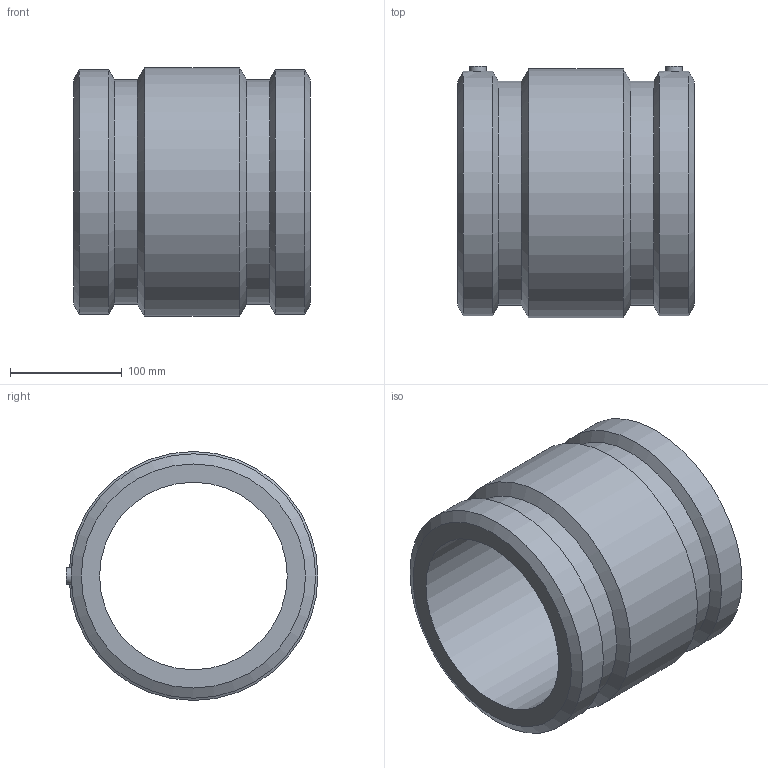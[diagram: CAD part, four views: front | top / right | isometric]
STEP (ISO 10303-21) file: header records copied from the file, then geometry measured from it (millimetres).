
FILE_DESCRIPTION(/* description */ ('PLASSON COUPLER 6''''DIPS'),/* implementation_level */ '2;1');
FILE_NAME(/* name */ 'C:\Dropbox\KIMPROJECTS-Inventor 2019\99-16-3568-Processing Inch\ASTM ElectroFusion 2021\5901D\5901D004060.ipt.stp',/* time_stamp */ '2021-08-30T09:49:05+03:00',/* author */ ('KIM'),/* organization */ (''),/* preprocessor_version */ 'ST-DEVELOPER v17.2',/* originating_system */ 'Autodesk Inventor 2019',/* authorisation */ '');
FILE_SCHEMA (('AUTOMOTIVE_DESIGN { 1 0 10303 214 3 1 1 }'));
Length unit declared in the file: inch
Products named in the file (1): 5901D004060
Bounding box: 212.09 x 225.55 x 223.01 mm (x, y, z)
Volume: 3061001.1 mm3; surface area: 298737.2 mm2
Topology: 1 solids, 1 shells, 28 faces, 66 edges, 46 vertices
Faces by surface type: cylinder 12, plane 8, cone 6, bspline 2
Full cylindrical faces by diameter (mm): 4 x2, 10 x2, 15 x2, 168 x1, 200.721 x2, 218.968 x2, 223.012 x1
Entity records: 1250 total; most frequent: CARTESIAN_POINT 536, DIRECTION 146, ORIENTED_EDGE 132, EDGE_CURVE 66, AXIS2_PLACEMENT_3D 63, VERTEX_POINT 46, CIRCLE 36, EDGE_LOOP 36
